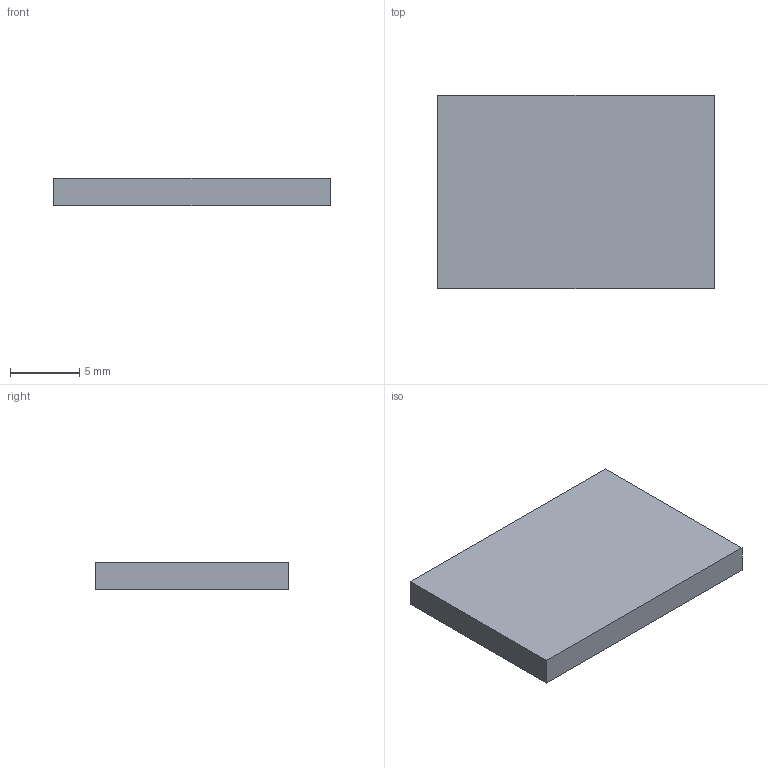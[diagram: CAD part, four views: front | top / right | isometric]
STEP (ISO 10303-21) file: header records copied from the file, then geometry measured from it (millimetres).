
FILE_DESCRIPTION(('Open CASCADE Model'),'2;1');
FILE_NAME('Open CASCADE Shape Model','2026-10-20T13:19:35',('Author'),( 'Open CASCADE'),'Open CASCADE STEP processor 7.9','Open CASCADE 7.9' ,'Unknown');
FILE_SCHEMA(('AUTOMOTIVE_DESIGN { 1 0 10303 214 1 1 1 1 }'));
Length unit declared in the file: millimetre
Products named in the file (1): Open CASCADE STEP translator 7.9 56
Bounding box: 20 x 14 x 2 mm (x, y, z)
Volume: 560 mm3; surface area: 696 mm2
Topology: 1 solids, 1 shells, 6 faces, 12 edges, 8 vertices
Faces by surface type: plane 6
Entity records: 322 total; most frequent: CARTESIAN_POINT 51, DIRECTION 50, LINE 36, VECTOR 36, ORIENTED_EDGE 24, PCURVE 24, DEFINITIONAL_REPRESENTATION 24, EDGE_CURVE 12
